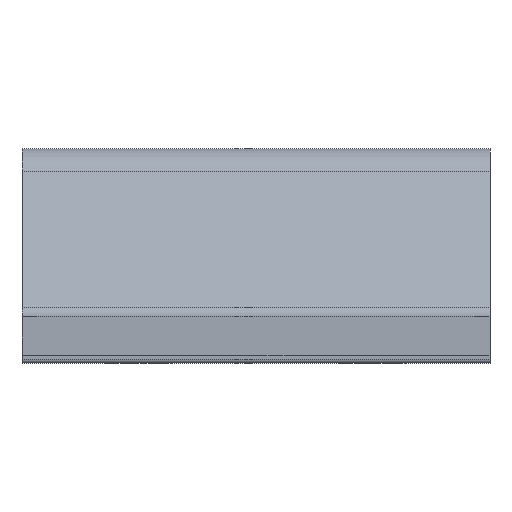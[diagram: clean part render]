
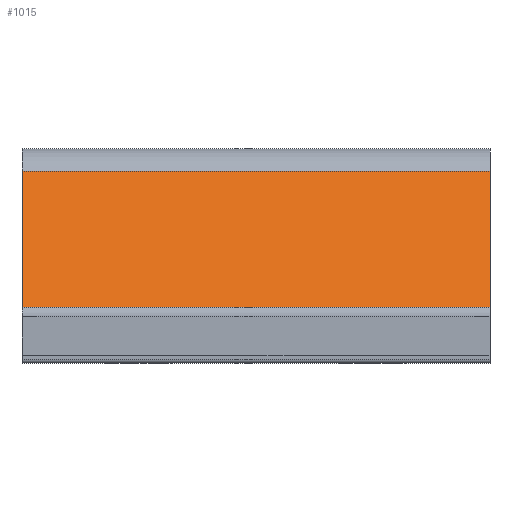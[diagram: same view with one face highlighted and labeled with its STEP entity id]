
A CAD part, front view. The second image highlights one B-rep face of the part: STEP entity #1015.
In plain terms, the highlighted planar face has unit normal (0, -0.906, 0.422).
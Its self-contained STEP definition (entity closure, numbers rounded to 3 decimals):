
#61 = VERTEX_POINT ( 'NONE', #537 ) ;
#131 = LINE ( 'NONE', #1641, #799 ) ;
#175 = EDGE_LOOP ( 'NONE', ( #281, #1639, #1059, #1292 ) ) ;
#258 = AXIS2_PLACEMENT_3D ( 'NONE', #541, #550, #429 ) ;
#281 = ORIENTED_EDGE ( 'NONE', *, *, #570, .T. ) ;
#285 = VERTEX_POINT ( 'NONE', #969 ) ;
#326 = CARTESIAN_POINT ( 'NONE',  ( 282.1, 99.332, -182.744 ) ) ;
#341 = LINE ( 'NONE', #383, #1703 ) ;
#360 = DIRECTION ( 'NONE',  ( 0., 0.422, 0.907 ) ) ;
#383 = CARTESIAN_POINT ( 'NONE',  ( 342.1, 98.794, -183.9 ) ) ;
#397 = FACE_OUTER_BOUND ( 'NONE', #175, .T. ) ;
#429 = DIRECTION ( 'NONE',  ( 0., 0.422, 0.907 ) ) ;
#445 = DIRECTION ( 'NONE',  ( 1., 0., 0. ) ) ;
#485 = CARTESIAN_POINT ( 'NONE',  ( 282.1, 107.461, -165.289 ) ) ;
#509 = DIRECTION ( 'NONE',  ( -1., 0., 0. ) ) ;
#537 = CARTESIAN_POINT ( 'NONE',  ( 342.1, 107.461, -165.289 ) ) ;
#541 = CARTESIAN_POINT ( 'NONE',  ( 282.1, 98.794, -183.9 ) ) ;
#550 = DIRECTION ( 'NONE',  ( 0., 0.907, -0.422 ) ) ;
#570 = EDGE_CURVE ( 'NONE', #285, #61, #341, .T. ) ;
#594 = EDGE_CURVE ( 'NONE', #883, #1695, #808, .T. ) ;
#640 = VECTOR ( 'NONE', #1722, 1000. ) ;
#664 = CARTESIAN_POINT ( 'NONE',  ( 282.1, 98.794, -183.9 ) ) ;
#799 = VECTOR ( 'NONE', #445, 1000. ) ;
#808 = LINE ( 'NONE', #664, #640 ) ;
#883 = VERTEX_POINT ( 'NONE', #326 ) ;
#969 = CARTESIAN_POINT ( 'NONE',  ( 342.1, 99.332, -182.744 ) ) ;
#1015 = ADVANCED_FACE ( 'NONE', ( #397 ), #1475, .F. ) ;
#1059 = ORIENTED_EDGE ( 'NONE', *, *, #594, .F. ) ;
#1165 = CARTESIAN_POINT ( 'NONE',  ( 282.1, 107.461, -165.289 ) ) ;
#1292 = ORIENTED_EDGE ( 'NONE', *, *, #1565, .T. ) ;
#1316 = LINE ( 'NONE', #1165, #1400 ) ;
#1360 = EDGE_CURVE ( 'NONE', #61, #1695, #1316, .T. ) ;
#1400 = VECTOR ( 'NONE', #509, 1000. ) ;
#1475 = PLANE ( 'NONE',  #258 ) ;
#1565 = EDGE_CURVE ( 'NONE', #883, #285, #131, .T. ) ;
#1639 = ORIENTED_EDGE ( 'NONE', *, *, #1360, .T. ) ;
#1641 = CARTESIAN_POINT ( 'NONE',  ( 342.1, 99.332, -182.744 ) ) ;
#1695 = VERTEX_POINT ( 'NONE', #485 ) ;
#1703 = VECTOR ( 'NONE', #360, 1000. ) ;
#1722 = DIRECTION ( 'NONE',  ( 0., 0.422, 0.907 ) ) ;
